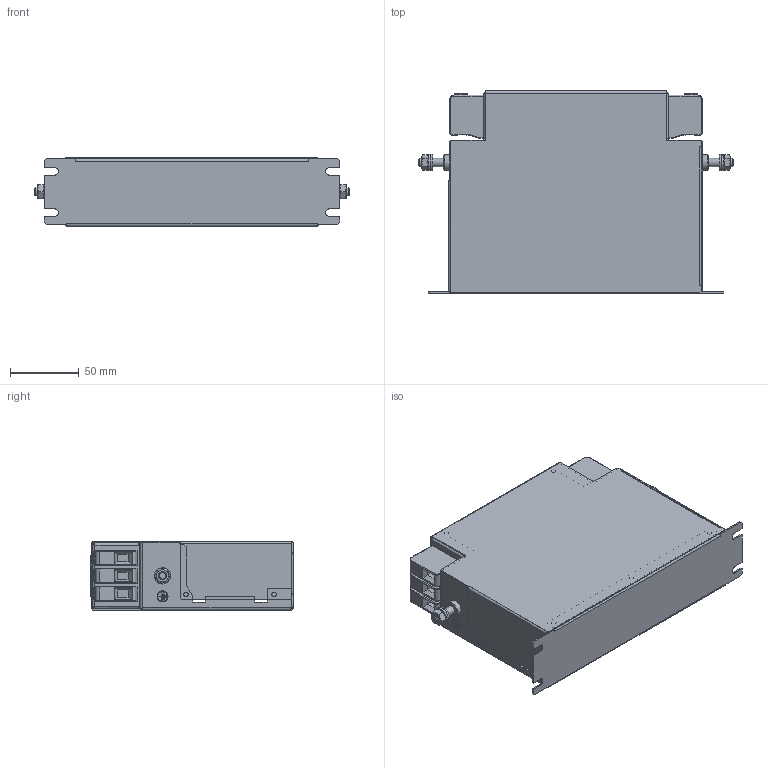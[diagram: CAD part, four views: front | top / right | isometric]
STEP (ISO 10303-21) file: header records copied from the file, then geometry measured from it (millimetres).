
FILE_DESCRIPTION(/* description */ ('raw material description'),/* implementation_level */ '2;1');
FILE_NAME(/* name */ 'C:\Users\Oliver.Volic\OneDrive - Schaffner EMV AG\Projekte\STEP\Wanda\FN3287-40-33.stp',/* time_stamp */ '2018-06-27T17:03:06+02:00',/* author */ ('Oliver.Volic'),/* organization */ ('Schaffner EMV AG'),/* preprocessor_version */ 'ST-DEVELOPER v16.5',/* originating_system */ 'Autodesk Inventor 2017',/* authorisation */ '');
FILE_SCHEMA (('AUTOMOTIVE_DESIGN { 1 0 10303 214 3 1 1 }'));
Length unit declared in the file: millimetre
Products named in the file (1): FN3287-40-33
Bounding box: 228.86 x 147.1 x 50 mm (x, y, z)
Volume: 141891.3 mm3; surface area: 193032.7 mm2
Topology: 1 solids, 10 shells, 1445 faces, 3550 edges, 2092 vertices
Faces by surface type: plane 863, cylinder 368, torus 81, sphere 72, bspline 31, cone 30
Full cylindrical faces by diameter (mm): 3.3 x13, 5.1 x6, 5.459 x2, 6 x4, 6.4 x2, 7 x2, 8 x2, 8.7 x4, 10 x6, 11.05 x2, 12 x2
Entity records: 43138 total; most frequent: CARTESIAN_POINT 8199, DIRECTION 6966, ORIENTED_EDGE 6812, EDGE_CURVE 3399, LINE 2418, VECTOR 2418, AXIS2_PLACEMENT_3D 2274, VERTEX_POINT 2073
